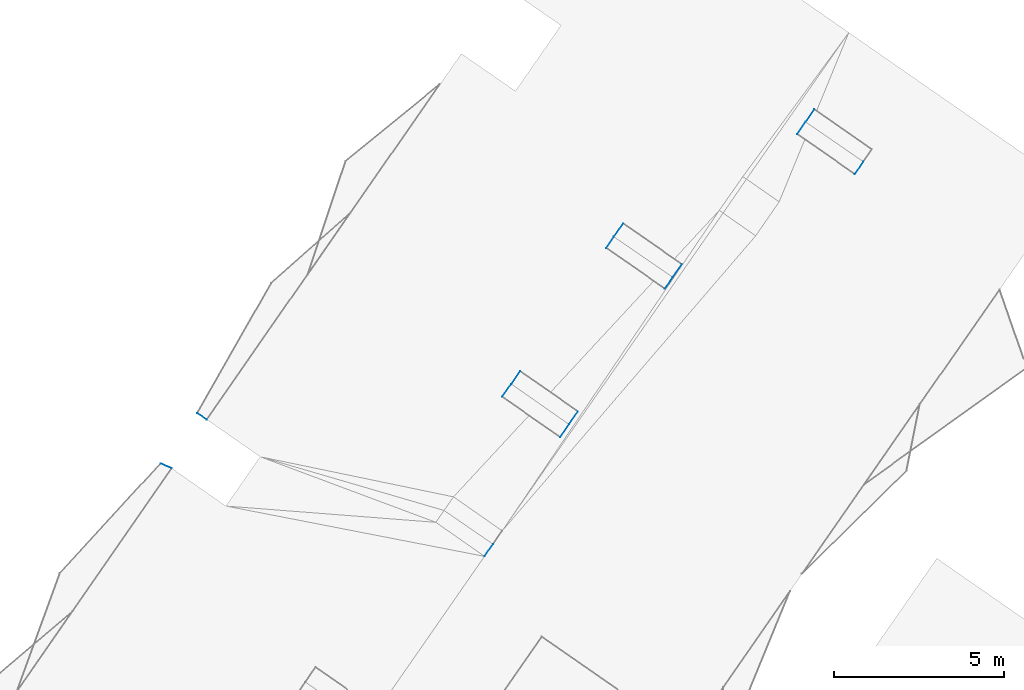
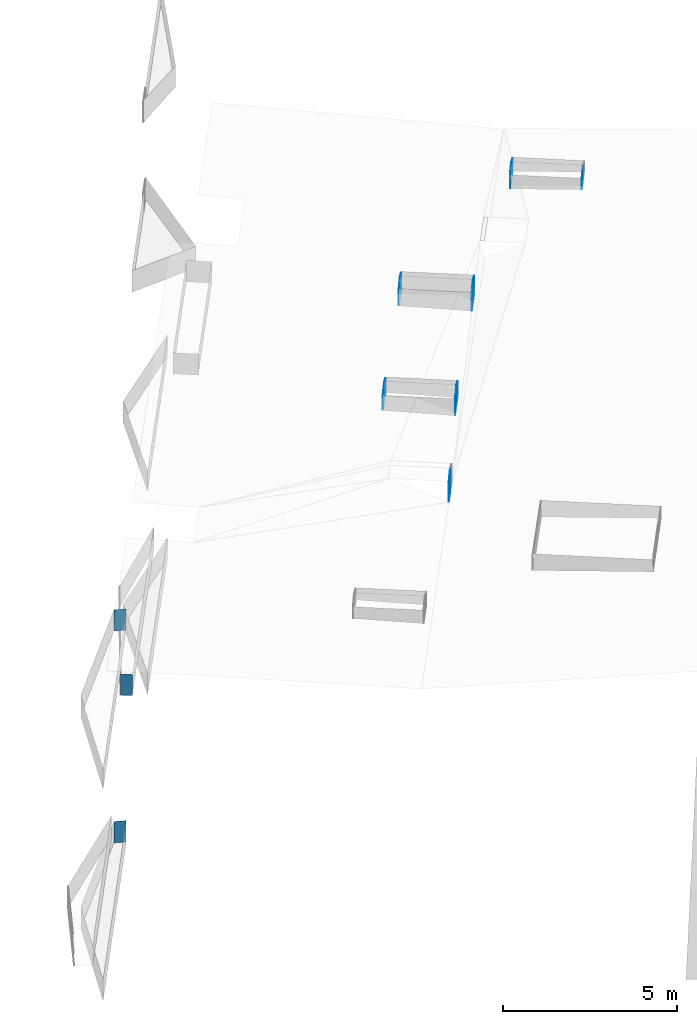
# Not in any storey, part 97 of 136: 18 walls.
"""IFC4 building model written with IfcOpenShell, lengths in metres."""

from ifc_helpers import new_model, entity, si_unit, converted_unit, frame, origin, place, context, subcontext, project, spatial, face_set, surface_model, element, save


model = new_model("IFC4")

# Units and contexts
model_context = context("Model", 3, precision=1e-05, world=origin())
body_context = subcontext(model_context, "Body", "Model", "MODEL_VIEW")
ifc_project = project(units=[converted_unit("PLANEANGLEUNIT", "DEGREE", entity("IfcRatioMeasure", 0.0174532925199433), si_unit("PLANEANGLEUNIT", "RADIAN"), dimensions=[0, 0, 0, 0, 0, 0, 0]), si_unit("AREAUNIT", "SQUARE_METRE"), si_unit("LENGTHUNIT", "METRE")], contexts=[model_context])

# Site, building
site_placement = place(None, origin())
site = spatial("IfcSite", under=ifc_project, at=site_placement, Name="_site")
building_placement = place(site_placement, origin())
building = spatial("IfcBuilding", under=site, at=building_placement, Name="_building")

# Walls
wall_1_placement = place(building_placement, origin())
element("IfcWall", 1, at=wall_1_placement, inside=building, Name="Wall", PredefinedType="NOTDEFINED", context=body_context, shape_type="SurfaceModel", body=[
    surface_model("IfcFaceBasedSurfaceModel", [(-39.98, 79.87, 54.35), (-39.72, 80.24, 54.18), (-39.72, 80.24, 53.637), (-39.98, 79.87, 53.642)], [face_set([[[0, 1, 2, 3]]])]),
])
wall_2_placement = place(building_placement, origin())
element("IfcWall", 2, at=wall_2_placement, inside=building, Name="Wall", PredefinedType="NOTDEFINED", context=body_context, shape_type="SurfaceModel", body=[
    surface_model("IfcFaceBasedSurfaceModel", [(-50.3, 77.53, 50.62), (-49.97, 77.39, 50.62), (-49.97, 77.39, 51.37), (-50.3, 77.53, 51.37)], [face_set([[[0, 1, 2, 3]]])]),
])
wall_3_placement = place(building_placement, origin())
element("IfcWall", 3, at=wall_3_placement, inside=building, Name="Wall", PredefinedType="NOTDEFINED", context=body_context, shape_type="SurfaceModel", body=[
    surface_model("IfcFaceBasedSurfaceModel", [(-40.25, 79.49, 54.18), (-39.98, 79.87, 54.35), (-39.98, 79.87, 53.642), (-40.25, 79.49, 53.648)], [face_set([[[0, 1, 2, 3]]])]),
])
wall_4_placement = place(building_placement, origin())
element("IfcWall", 4, at=wall_4_placement, inside=building, Name="Wall", PredefinedType="NOTDEFINED", context=body_context, shape_type="SurfaceModel", body=[
    surface_model("IfcFaceBasedSurfaceModel", [(-38.28, 78.68, 54.35), (-38.54, 78.3, 54.18), (-38.54, 78.3, 53.587), (-38.28, 78.68, 53.582)], [face_set([[[0, 1, 2, 3]]])]),
])
wall_5_placement = place(building_placement, origin())
element("IfcWall", 5, at=wall_5_placement, inside=building, Name="Wall", PredefinedType="NOTDEFINED", context=body_context, shape_type="SurfaceModel", body=[
    surface_model("IfcFaceBasedSurfaceModel", [(-29.62, 86.41, 54.33), (-29.87, 86.04, 54.18), (-29.87, 86.04, 53.78), (-29.62, 86.41, 53.78)], [face_set([[[0, 1, 2, 3]]])]),
])
wall_6_placement = place(building_placement, origin())
element("IfcWall", 6, at=wall_6_placement, inside=building, Name="Wall", PredefinedType="NOTDEFINED", context=body_context, shape_type="SurfaceModel", body=[
    surface_model("IfcFaceBasedSurfaceModel", [(-31.57, 87.22, 54.18), (-31.32, 87.58, 54.33), (-31.32, 87.58, 53.685), (-31.57, 87.22, 53.685)], [face_set([[[0, 1, 2, 3]]])]),
])
wall_7_placement = place(building_placement, origin())
element("IfcWall", 7, at=wall_7_placement, inside=building, Name="Wall", PredefinedType="NOTDEFINED", context=body_context, shape_type="SurfaceModel", body=[
    surface_model("IfcFaceBasedSurfaceModel", [(-37.19, 83.87, 54.18), (-36.96, 84.2, 54.35), (-36.96, 84.2, 53.582), (-37.19, 83.87, 53.587)], [face_set([[[0, 1, 2, 3]]])]),
])
wall_8_placement = place(building_placement, origin())
element("IfcWall", 8, at=wall_8_placement, inside=building, Name="Wall", PredefinedType="NOTDEFINED", context=body_context, shape_type="SurfaceModel", body=[
    surface_model("IfcFaceBasedSurfaceModel", [(-35.23, 83.01, 54.35), (-35.46, 82.67, 54.18), (-35.46, 82.67, 53.525), (-35.23, 83.01, 53.521)], [face_set([[[0, 1, 2, 3]]])]),
])
wall_9_placement = place(building_placement, origin())
element("IfcWall", 9, at=wall_9_placement, inside=building, Name="Wall", PredefinedType="NOTDEFINED", context=body_context, shape_type="SurfaceModel", body=[
    surface_model("IfcFaceBasedSurfaceModel", [(-50.3, 77.53, 50.62), (-49.97, 77.39, 50.62), (-49.97, 77.39, 51.37), (-50.3, 77.53, 51.37)], [face_set([[[0, 1, 2, 3]]])]),
])
wall_10_placement = place(building_placement, origin())
element("IfcWall", 10, at=wall_10_placement, inside=building, Name="Wall", PredefinedType="NOTDEFINED", context=body_context, shape_type="SurfaceModel", body=[
    surface_model("IfcFaceBasedSurfaceModel", [(-40.519, 75.159, 54.35), (-40.769, 74.799, 54.18), (-40.769, 74.799, 53.46), (-40.519, 75.159, 53.46)], [face_set([[[0, 1, 2, 3]]])]),
])
for number, where, name in (
    (11, (0.0, 0.0, 0.0), "Wall"),
    (12, (0.0, 0.0, 0.0), "Wall"),
):
    element("IfcWall", number, at=place(building_placement, frame(where)), inside=building, Name=name, PredefinedType="NOTDEFINED", context=body_context, shape_type="SurfaceModel", body=[
        surface_model("IfcFaceBasedSurfaceModel", [(-50.3, 77.53, 43.2), (-49.97, 77.39, 43.2), (-49.97, 77.39, 43.95), (-50.3, 77.53, 43.95)], [face_set([[[0, 1, 2, 3]]])]),
    ])
wall_11_placement = place(building_placement, origin())
element("IfcWall", 13, at=wall_11_placement, inside=building, Name="Wall", PredefinedType="NOTDEFINED", context=body_context, shape_type="SurfaceModel", body=[
    surface_model("IfcFaceBasedSurfaceModel", [(-31.32, 87.58, 54.33), (-31.06, 87.95, 54.18), (-31.06, 87.95, 53.686), (-31.32, 87.58, 53.685)], [face_set([[[0, 1, 2, 3]]])]),
])
wall_12_placement = place(building_placement, origin())
element("IfcWall", 14, at=wall_12_placement, inside=building, Name="Wall", PredefinedType="NOTDEFINED", context=body_context, shape_type="SurfaceModel", body=[
    surface_model("IfcFaceBasedSurfaceModel", [(-34.96, 83.39, 54.18), (-35.23, 83.01, 54.35), (-35.23, 83.01, 53.521), (-34.96, 83.39, 53.515)], [face_set([[[0, 1, 2, 3]]])]),
])
for number, where, name in (
    (15, (0.0, 0.0, 0.0), "Wall"),
    (16, (0.0, 0.0, 0.0), "Wall"),
):
    element("IfcWall", number, at=place(building_placement, frame(where)), inside=building, Name=name, PredefinedType="NOTDEFINED", context=body_context, shape_type="SurfaceModel", body=[
        surface_model("IfcFaceBasedSurfaceModel", [(-48.94, 78.82, 47.1), (-49.22, 79.01, 47.1), (-49.22, 79.01, 47.85), (-48.94, 78.82, 47.85)], [face_set([[[0, 1, 2, 3]]])]),
    ])
wall_13_placement = place(building_placement, origin())
element("IfcWall", 17, at=wall_13_placement, inside=building, Name="Wall", PredefinedType="NOTDEFINED", context=body_context, shape_type="SurfaceModel", body=[
    surface_model("IfcFaceBasedSurfaceModel", [(-38.02, 79.061, 54.18), (-38.28, 78.68, 54.35), (-38.28, 78.68, 53.582), (-38.02, 79.061, 53.577)], [face_set([[[0, 1, 2, 3]]])]),
])
wall_14_placement = place(building_placement, origin())
element("IfcWall", 18, at=wall_14_placement, inside=building, Name="Wall", PredefinedType="NOTDEFINED", context=body_context, shape_type="SurfaceModel", body=[
    surface_model("IfcFaceBasedSurfaceModel", [(-36.96, 84.2, 54.35), (-36.69, 84.59, 54.18), (-36.69, 84.59, 53.577), (-36.96, 84.2, 53.582)], [face_set([[[0, 1, 2, 3]]])]),
])

save(model, "model.ifc")
